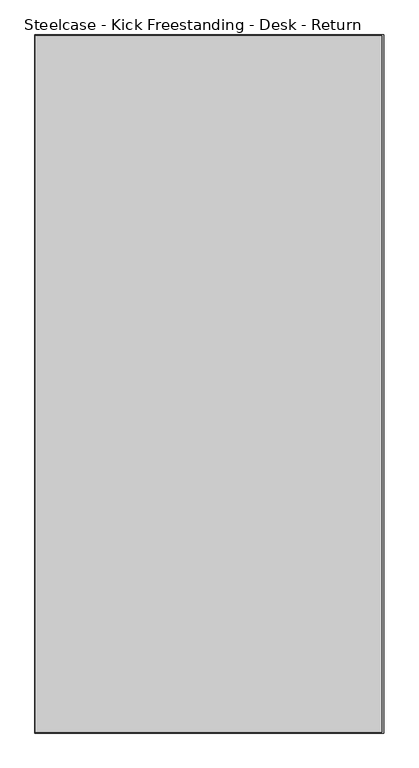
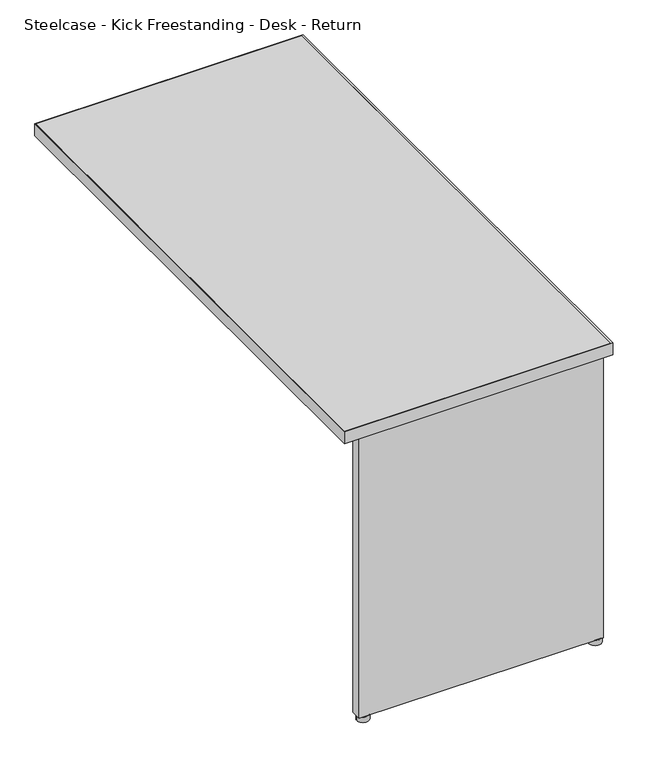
"""IFC4 building model written with IfcOpenShell, lengths in millimetres: furniture geometry, Steelcase - Kick Freestanding - Desk - Return : 24D x 48W - Left."""

from ifc_helpers import new_model, si_unit, point, frame, frame_2d, origin, origin_with_axes, place, context, project, spatial, polyline, circle_curve, trimmed, segment, composite_curve, outline, extrude, source, transform, mapped, element, save


def steelcase_kick_freestanding_desk_return_f72426a8(model_context):
    return source(origin(), model_context, "Body", "SweptSolid", [
        extrude(outline(composite_curve([segment(trimmed(circle_curve(frame_2d((2220.2474425, -1740.6145152)), 13.97), [point((2206.2774425, -1740.6145152))], [point((2234.2174425, -1740.6145152))], False, "CARTESIAN"), True, "CONTINUOUS"), segment(trimmed(circle_curve(frame_2d((2220.2474425, -1740.6145152)), 13.97), [point((2234.2174425, -1740.6145152))], [point((2206.2774425, -1740.6145152))], False, "CARTESIAN"), True, "CONTINUOUS")], self_intersect=False)), origin_with_axes(), (0.0, 0.0, 1.0), 12.7),
        extrude(outline(composite_curve([segment(trimmed(circle_curve(frame_2d((2748.0594425, -1740.6145152)), 13.97), [point((2734.0894425, -1740.6145152))], [point((2762.0294425, -1740.6145152))], False, "CARTESIAN"), True, "CONTINUOUS"), segment(trimmed(circle_curve(frame_2d((2748.0594425, -1740.6145152)), 13.97), [point((2762.0294425, -1740.6145152))], [point((2734.0894425, -1740.6145152))], False, "CARTESIAN"), True, "CONTINUOUS")], self_intersect=False)), origin_with_axes(), (0.0, 0.0, 1.0), 12.7),
        extrude(outline(polyline([(2205.0074425, -1728.0669152), (2328.2736437, -1728.0669152), (2328.2736437, -1750.4951136), (2427.9940467, -1750.4951136), (2427.9940467, -1728.0669041), (2536.7314502, -1728.0669041), (2536.7314502, -1750.4951136), (2636.4518532, -1750.4951136), (2636.4518532, -1728.0669041), (2759.4894376, -1728.0669041), (2759.4894376, -1752.5525098), (2205.0074425, -1752.5525098), (2205.0074425, -1728.0669152)])), frame((0.0, 0.0, 12.7), z_axis=(0.0, 0.0, 1.0), x_axis=(1.0, 0.0, 0.0)), (0.0, 0.0, 1.0), 682.244),
        extrude(outline(polyline([(2769.2176592, -548.0845152), (2769.2176592, -1764.7445152), (2164.8500425, -1764.7445152), (2164.8500425, -548.0845152), (2769.2176592, -548.0845152)])), frame((0.0, 0.0, 694.944), z_axis=(0.0, 0.0, 1.0), x_axis=(1.0, 0.0, 0.0)), (0.0, 0.0, 1.0), 28.956),
        extrude(outline(polyline([(2773.4594425, -546.8145152), (2773.4594425, -1766.0145152), (2163.8594425, -1766.0145152), (2163.8594425, -546.8145152), (2773.4594425, -546.8145152)]), holes=[polyline([(2769.2176592, -548.0845152), (2164.8500425, -548.0845152), (2164.8500425, -1764.7445152), (2769.2176592, -1764.7445152), (2769.2176592, -548.0845152)])]), frame((0.0, 0.0, 694.944), z_axis=(0.0, 0.0, 1.0), x_axis=(1.0, 0.0, 0.0)), (0.0, 0.0, 1.0), 28.956),
    ])


if __name__ == "__main__":
    model = new_model("IFC4")
    model_context = context("Model", 3, world=origin())
    ifc_project = project(units=[si_unit("LENGTHUNIT", "METRE", prefix="MILLI")], contexts=[model_context])
    site = spatial("IfcSite", under=ifc_project)
    building = spatial("IfcBuilding", under=site)
    placement = place(None, origin())
    steelcase_kick_freestanding_desk_return_shape = steelcase_kick_freestanding_desk_return_f72426a8(model_context)
    element("IfcFurniture", 1, ObjectType="Steelcase - Kick Freestanding - Desk - Return : 24D x 48W - Left", at=placement, inside=building, context=model_context, shape_type="MappedRepresentation", body=[
        mapped(steelcase_kick_freestanding_desk_return_shape, transform((0.0, 0.0, 0.0), x_axis=(1.0, 0.0, 0.0), y_axis=(0.0, 1.0, 0.0), z_axis=(0.0, 0.0, 1.0))),
    ])
    save(model, "model.ifc")
